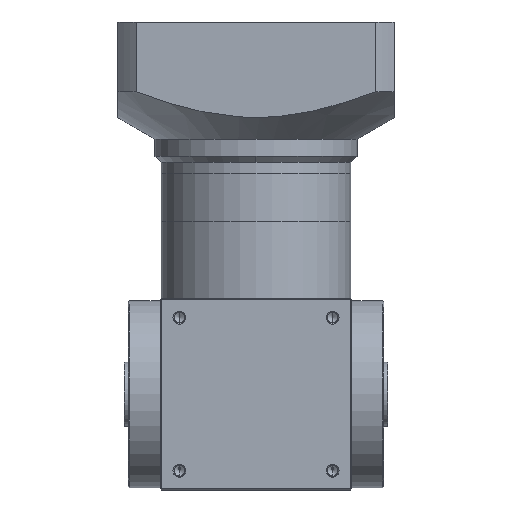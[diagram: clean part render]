
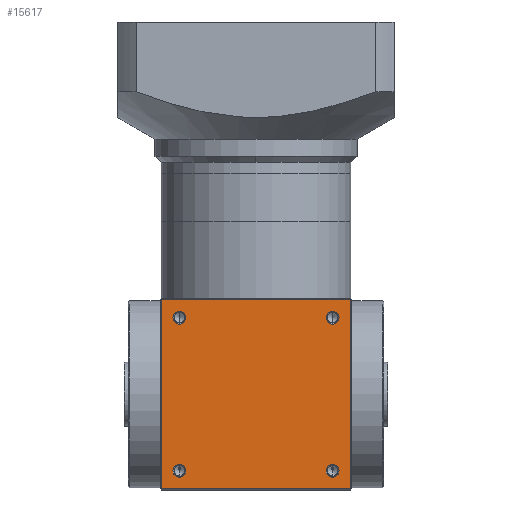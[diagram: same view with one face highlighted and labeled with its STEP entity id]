
A CAD part, front view. The second image highlights one B-rep face of the part: STEP entity #15617.
In plain terms, the highlighted planar face has unit normal (0, -1, 0).
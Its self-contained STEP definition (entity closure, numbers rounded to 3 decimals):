
#325 = EDGE_CURVE ( 'NONE', #7722, #1229, #49866, .T. ) ;
#1229 = VERTEX_POINT ( 'NONE', #4446 ) ;
#1667 = LINE ( 'NONE', #34725, #2813 ) ;
#2813 = VECTOR ( 'NONE', #46533, 1000. ) ;
#3680 = DIRECTION ( 'NONE',  ( 0., -1., 0. ) ) ;
#3778 = CARTESIAN_POINT ( 'NONE',  ( -44.5, -45., 89.5 ) ) ;
#4446 = CARTESIAN_POINT ( 'NONE',  ( 44.5, -45., 0.5 ) ) ;
#4508 = CIRCLE ( 'NONE', #20862, 3.025 ) ;
#5571 = ORIENTED_EDGE ( 'NONE', *, *, #45468, .F. ) ;
#6112 = EDGE_LOOP ( 'NONE', ( #46028, #45219 ) ) ;
#6175 = CIRCLE ( 'NONE', #40389, 3.025 ) ;
#6270 = ORIENTED_EDGE ( 'NONE', *, *, #10133, .F. ) ;
#6571 = VECTOR ( 'NONE', #16849, 1000. ) ;
#7722 = VERTEX_POINT ( 'NONE', #24363 ) ;
#7779 = CIRCLE ( 'NONE', #12605, 3.025 ) ;
#9858 = CARTESIAN_POINT ( 'NONE',  ( 36., -45., 9. ) ) ;
#10104 = EDGE_CURVE ( 'NONE', #35105, #40462, #11243, .T. ) ;
#10113 = EDGE_LOOP ( 'NONE', ( #5571, #46119, #46740, #17502 ) ) ;
#10133 = EDGE_CURVE ( 'NONE', #44130, #39244, #13778, .T. ) ;
#10695 = DIRECTION ( 'NONE',  ( 0., 0., -1. ) ) ;
#10798 = DIRECTION ( 'NONE',  ( 0., -1., 0. ) ) ;
#10851 = CARTESIAN_POINT ( 'NONE',  ( 36., -45., 81. ) ) ;
#11243 = LINE ( 'NONE', #16906, #6571 ) ;
#11459 = DIRECTION ( 'NONE',  ( -1., 0., 0. ) ) ;
#12087 = DIRECTION ( 'NONE',  ( 0., 0., -1. ) ) ;
#12214 = CIRCLE ( 'NONE', #29349, 3.025 ) ;
#12605 = AXIS2_PLACEMENT_3D ( 'NONE', #27671, #3680, #31626 ) ;
#12683 = EDGE_CURVE ( 'NONE', #46279, #44544, #38074, .T. ) ;
#13046 = EDGE_LOOP ( 'NONE', ( #33618, #6270 ) ) ;
#13303 = EDGE_CURVE ( 'NONE', #14948, #37854, #47706, .T. ) ;
#13760 = DIRECTION ( 'NONE',  ( 0., 0., 1. ) ) ;
#13778 = CIRCLE ( 'NONE', #42238, 3.025 ) ;
#13915 = DIRECTION ( 'NONE',  ( 0., 0., -1. ) ) ;
#13929 = DIRECTION ( 'NONE',  ( 0., 1., 0. ) ) ;
#14107 = CARTESIAN_POINT ( 'NONE',  ( -45., -45., 90. ) ) ;
#14284 = PLANE ( 'NONE',  #22006 ) ;
#14534 = CARTESIAN_POINT ( 'NONE',  ( -36., -45., 81. ) ) ;
#14948 = VERTEX_POINT ( 'NONE', #43370 ) ;
#15617 = ADVANCED_FACE ( 'NONE', ( #17082, #16695, #17030, #16489, #16604 ), #14284, .F. ) ;
#15730 = DIRECTION ( 'NONE',  ( 0., 0., -1. ) ) ;
#15736 = DIRECTION ( 'NONE',  ( 0., -1., 0. ) ) ;
#15790 = CARTESIAN_POINT ( 'NONE',  ( 36., -45., 9. ) ) ;
#16489 = FACE_BOUND ( 'NONE', #21832, .T. ) ;
#16604 = FACE_OUTER_BOUND ( 'NONE', #10113, .T. ) ;
#16695 = FACE_BOUND ( 'NONE', #24637, .T. ) ;
#16849 = DIRECTION ( 'NONE',  ( 0., 0., 1. ) ) ;
#16906 = CARTESIAN_POINT ( 'NONE',  ( -44.5, -45., 90. ) ) ;
#17030 = FACE_BOUND ( 'NONE', #13046, .T. ) ;
#17082 = FACE_BOUND ( 'NONE', #6112, .T. ) ;
#17435 = CARTESIAN_POINT ( 'NONE',  ( 36., -45., 81. ) ) ;
#17502 = ORIENTED_EDGE ( 'NONE', *, *, #10104, .F. ) ;
#18548 = DIRECTION ( 'NONE',  ( 0., 0., -1. ) ) ;
#19832 = EDGE_CURVE ( 'NONE', #39244, #44130, #42409, .T. ) ;
#20156 = LINE ( 'NONE', #31342, #21466 ) ;
#20862 = AXIS2_PLACEMENT_3D ( 'NONE', #14534, #42119, #18548 ) ;
#21449 = DIRECTION ( 'NONE',  ( 0., 0., -1. ) ) ;
#21466 = VECTOR ( 'NONE', #11459, 1000. ) ;
#21832 = EDGE_LOOP ( 'NONE', ( #33322, #47755 ) ) ;
#22006 = AXIS2_PLACEMENT_3D ( 'NONE', #14107, #13929, #13760 ) ;
#22282 = DIRECTION ( 'NONE',  ( 0., -1., 0. ) ) ;
#22460 = AXIS2_PLACEMENT_3D ( 'NONE', #9858, #37594, #13915 ) ;
#24011 = EDGE_CURVE ( 'NONE', #44544, #46279, #6175, .T. ) ;
#24363 = CARTESIAN_POINT ( 'NONE',  ( 44.5, -45., 89.5 ) ) ;
#24637 = EDGE_LOOP ( 'NONE', ( #28283, #26896 ) ) ;
#26896 = ORIENTED_EDGE ( 'NONE', *, *, #35044, .F. ) ;
#27671 = CARTESIAN_POINT ( 'NONE',  ( -36., -45., 9. ) ) ;
#28283 = ORIENTED_EDGE ( 'NONE', *, *, #13303, .F. ) ;
#29095 = CARTESIAN_POINT ( 'NONE',  ( 36., -45., 5.975 ) ) ;
#29349 = AXIS2_PLACEMENT_3D ( 'NONE', #45724, #22282, #49516 ) ;
#31342 = CARTESIAN_POINT ( 'NONE',  ( -45., -45., 0.5 ) ) ;
#31626 = DIRECTION ( 'NONE',  ( 0., 0., -1. ) ) ;
#31878 = AXIS2_PLACEMENT_3D ( 'NONE', #10851, #10798, #10695 ) ;
#33322 = ORIENTED_EDGE ( 'NONE', *, *, #39328, .F. ) ;
#33465 = CARTESIAN_POINT ( 'NONE',  ( 44.5, -45., 90. ) ) ;
#33618 = ORIENTED_EDGE ( 'NONE', *, *, #19832, .F. ) ;
#34354 = CARTESIAN_POINT ( 'NONE',  ( -36., -45., 84.025 ) ) ;
#34725 = CARTESIAN_POINT ( 'NONE',  ( -45., -45., 89.5 ) ) ;
#35044 = EDGE_CURVE ( 'NONE', #37854, #14948, #4508, .T. ) ;
#35105 = VERTEX_POINT ( 'NONE', #46330 ) ;
#36036 = EDGE_CURVE ( 'NONE', #40462, #7722, #1667, .T. ) ;
#37594 = DIRECTION ( 'NONE',  ( 0., -1., 0. ) ) ;
#37854 = VERTEX_POINT ( 'NONE', #34354 ) ;
#38074 = CIRCLE ( 'NONE', #31878, 3.025 ) ;
#39244 = VERTEX_POINT ( 'NONE', #29095 ) ;
#39328 = EDGE_CURVE ( 'NONE', #47637, #48997, #12214, .T. ) ;
#40345 = CARTESIAN_POINT ( 'NONE',  ( 36., -45., 77.975 ) ) ;
#40389 = AXIS2_PLACEMENT_3D ( 'NONE', #17435, #44911, #21449 ) ;
#40462 = VERTEX_POINT ( 'NONE', #3778 ) ;
#41305 = CARTESIAN_POINT ( 'NONE',  ( -36., -45., 5.975 ) ) ;
#42119 = DIRECTION ( 'NONE',  ( 0., -1., 0. ) ) ;
#42238 = AXIS2_PLACEMENT_3D ( 'NONE', #15790, #15736, #15730 ) ;
#42409 = CIRCLE ( 'NONE', #22460, 3.025 ) ;
#43370 = CARTESIAN_POINT ( 'NONE',  ( -36., -45., 77.975 ) ) ;
#44130 = VERTEX_POINT ( 'NONE', #48578 ) ;
#44544 = VERTEX_POINT ( 'NONE', #40345 ) ;
#44576 = DIRECTION ( 'NONE',  ( 0., 0., -1. ) ) ;
#44620 = DIRECTION ( 'NONE',  ( 0., -1., 0. ) ) ;
#44633 = CARTESIAN_POINT ( 'NONE',  ( -36., -45., 81. ) ) ;
#44911 = DIRECTION ( 'NONE',  ( 0., -1., 0. ) ) ;
#45219 = ORIENTED_EDGE ( 'NONE', *, *, #12683, .F. ) ;
#45329 = CARTESIAN_POINT ( 'NONE',  ( 36., -45., 84.025 ) ) ;
#45346 = CARTESIAN_POINT ( 'NONE',  ( -36., -45., 12.025 ) ) ;
#45468 = EDGE_CURVE ( 'NONE', #1229, #35105, #20156, .T. ) ;
#45724 = CARTESIAN_POINT ( 'NONE',  ( -36., -45., 9. ) ) ;
#45959 = EDGE_CURVE ( 'NONE', #48997, #47637, #7779, .T. ) ;
#46028 = ORIENTED_EDGE ( 'NONE', *, *, #24011, .F. ) ;
#46119 = ORIENTED_EDGE ( 'NONE', *, *, #325, .F. ) ;
#46279 = VERTEX_POINT ( 'NONE', #45329 ) ;
#46330 = CARTESIAN_POINT ( 'NONE',  ( -44.5, -45., 0.5 ) ) ;
#46533 = DIRECTION ( 'NONE',  ( 1., 0., 0. ) ) ;
#46740 = ORIENTED_EDGE ( 'NONE', *, *, #36036, .F. ) ;
#47637 = VERTEX_POINT ( 'NONE', #41305 ) ;
#47706 = CIRCLE ( 'NONE', #50548, 3.025 ) ;
#47755 = ORIENTED_EDGE ( 'NONE', *, *, #45959, .F. ) ;
#48578 = CARTESIAN_POINT ( 'NONE',  ( 36., -45., 12.025 ) ) ;
#48997 = VERTEX_POINT ( 'NONE', #45346 ) ;
#49516 = DIRECTION ( 'NONE',  ( 0., 0., -1. ) ) ;
#49780 = VECTOR ( 'NONE', #12087, 1000. ) ;
#49866 = LINE ( 'NONE', #33465, #49780 ) ;
#50548 = AXIS2_PLACEMENT_3D ( 'NONE', #44633, #44620, #44576 ) ;
